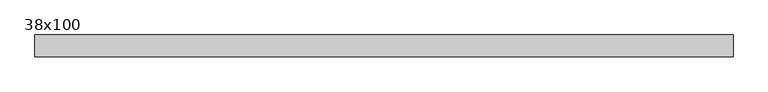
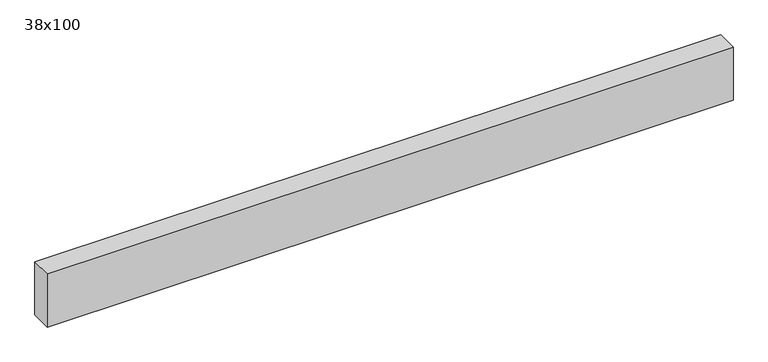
"""IFC4 building model written with IfcOpenShell, lengths in millimetres: beam geometry, Poutre - Bois de construction de dimensions courantes : 38x100."""

from ifc_helpers import new_model, si_unit, frame, origin, place, context, project, spatial, polyline, outline, extrude, source, transform, mapped, element, save


def beam_38x100_bd21e7ab(model_context):
    return source(origin(), model_context, "Body", "SweptSolid", [
        extrude(outline(polyline([(602.5, 19.05), (602.5, -19.05), (-616.5, -19.05), (-616.5, 19.05), (602.5, 19.05)])), frame((0.0, 0.0, -50.0), z_axis=(0.0, 0.0, 1.0), x_axis=(1.0, 0.0, 0.0)), (0.0, 0.0, 1.0), 100.0),
    ])


if __name__ == "__main__":
    model = new_model("IFC4")
    model_context = context("Model", 3, world=origin())
    ifc_project = project(units=[si_unit("LENGTHUNIT", "METRE", prefix="MILLI")], contexts=[model_context])
    site = spatial("IfcSite", under=ifc_project)
    building = spatial("IfcBuilding", under=site)
    placement = place(None, origin())
    beam_38x100_shape = beam_38x100_bd21e7ab(model_context)
    element("IfcBeam", 1, ObjectType="Poutre - Bois de construction de dimensions courantes : 38x100", at=placement, inside=building, context=model_context, shape_type="MappedRepresentation", body=[
        mapped(beam_38x100_shape, transform((0.0, 0.0, 0.0), x_axis=(1.0, 0.0, 0.0), y_axis=(0.0, 1.0, 0.0), z_axis=(0.0, 0.0, 1.0))),
    ])
    save(model, "model.ifc")
